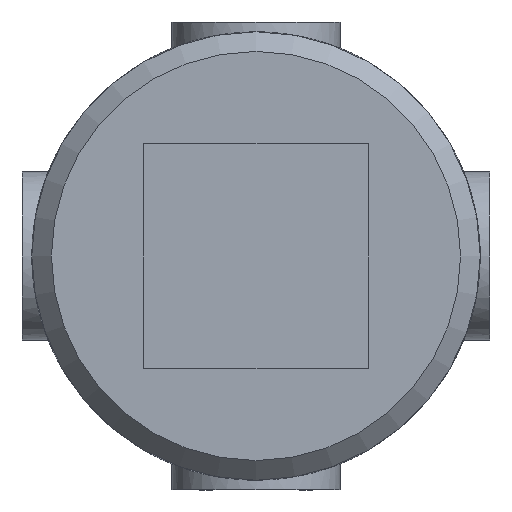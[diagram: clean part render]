
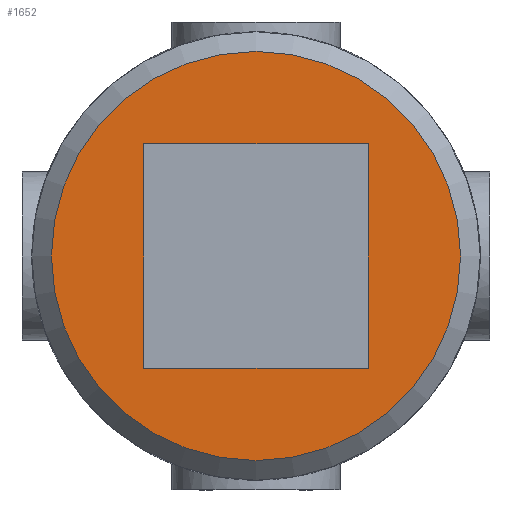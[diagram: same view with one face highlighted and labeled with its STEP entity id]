
A CAD part, front view. The second image highlights one B-rep face of the part: STEP entity #1652.
In plain terms, the highlighted planar face has unit normal (0, -1, 0).
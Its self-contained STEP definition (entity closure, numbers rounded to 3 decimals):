
#112=LINE('',#3078,#176);
#116=LINE('',#3101,#180);
#122=LINE('',#3139,#186);
#125=LINE('',#3159,#189);
#176=VECTOR('',#2139,8.);
#180=VECTOR('',#2147,8.);
#186=VECTOR('',#2155,8.);
#189=VECTOR('',#2162,8.);
#240=PLANE('',#1818);
#377=FACE_BOUND('',#602,.T.);
#463=FACE_OUTER_BOUND('',#601,.T.);
#601=EDGE_LOOP('',(#1439));
#602=EDGE_LOOP('',(#1440,#1441,#1442,#1443));
#690=CIRCLE('',#1816,7.3);
#813=VERTEX_POINT('',#3075);
#814=VERTEX_POINT('',#3077);
#820=VERTEX_POINT('',#3100);
#829=VERTEX_POINT('',#3137);
#836=VERTEX_POINT('',#3204);
#1013=EDGE_CURVE('',#814,#813,#112,.T.);
#1020=EDGE_CURVE('',#820,#814,#116,.T.);
#1030=EDGE_CURVE('',#813,#829,#122,.T.);
#1036=EDGE_CURVE('',#829,#820,#125,.T.);
#1047=EDGE_CURVE('',#836,#836,#690,.T.);
#1439=ORIENTED_EDGE('',*,*,#1047,.F.);
#1440=ORIENTED_EDGE('',*,*,#1013,.T.);
#1441=ORIENTED_EDGE('',*,*,#1030,.T.);
#1442=ORIENTED_EDGE('',*,*,#1036,.T.);
#1443=ORIENTED_EDGE('',*,*,#1020,.T.);
#1652=ADVANCED_FACE('',(#463,#377),#240,.F.);
#1816=AXIS2_PLACEMENT_3D('',#3205,#2191,#2192);
#1818=AXIS2_PLACEMENT_3D('',#3373,#2199,#2200);
#2139=DIRECTION('',(0.,0.,-1.));
#2147=DIRECTION('',(1.,0.,0.));
#2155=DIRECTION('',(-1.,0.,0.));
#2162=DIRECTION('',(0.,0.,1.));
#2191=DIRECTION('center_axis',(0.,1.,0.));
#2192=DIRECTION('ref_axis',(1.,0.,0.));
#2199=DIRECTION('center_axis',(0.,1.,0.));
#2200=DIRECTION('ref_axis',(0.,0.,1.));
#3075=CARTESIAN_POINT('',(4.,-24.,-4.));
#3077=CARTESIAN_POINT('',(4.,-24.,4.));
#3078=CARTESIAN_POINT('',(4.,-24.,2.));
#3100=CARTESIAN_POINT('',(-4.,-24.,4.));
#3101=CARTESIAN_POINT('',(-2.,-24.,4.));
#3137=CARTESIAN_POINT('',(-4.,-24.,-4.));
#3139=CARTESIAN_POINT('',(2.,-24.,-4.));
#3159=CARTESIAN_POINT('',(-4.,-24.,-2.));
#3204=CARTESIAN_POINT('',(-7.3,-24.,0.));
#3205=CARTESIAN_POINT('Origin',(0.,-24.,0.));
#3373=CARTESIAN_POINT('Origin',(0.,-24.,0.));
